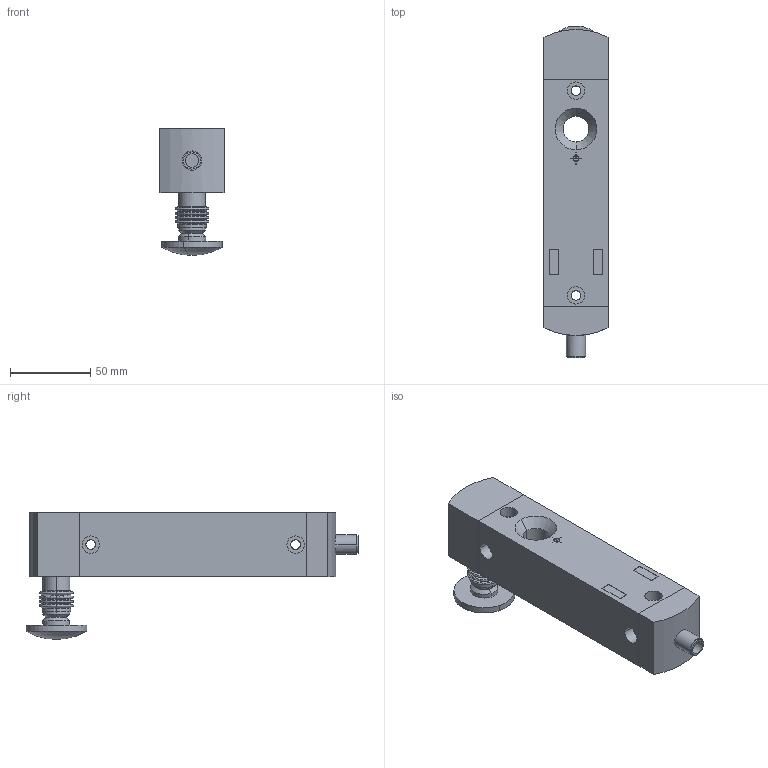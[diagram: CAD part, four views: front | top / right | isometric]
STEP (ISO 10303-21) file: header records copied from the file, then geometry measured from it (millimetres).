
FILE_DESCRIPTION (( 'STEP AP214' ), '1' );
FILE_NAME ('ZF_STEP_NS_xxTExSxK.step', '2017-07-18T06:17:54', ( 'Pizzato Elettrica' ), ( 'Microsoft' ), 'SwSTEP 2.0', 'SolidWorks 2014', '' );
FILE_SCHEMA (( 'AUTOMOTIVE_DESIGN' ));
Length unit declared in the file: millimetre
Products named in the file (7): Pizzato_testa_NS_TE; Pizzato_Pulsante_Fungo_Sblocco_NS; Pizzato_Fungo_NS_8841; Pizzato_testa_NS_Tappo modulare; Pizzato_connettore_NS_SMK; Pizzato_Custodia NS; ZF_STEP_NS_xxTExSxK
Assembly tree (6 placements, depth 3):
  ZF_STEP_NS_xxTExSxK
    Pizzato_Custodia NS
    Pizzato_connettore_NS_SMK
    Pizzato_testa_NS_TE
      Pizzato_testa_NS_Tappo modulare
      Pizzato_Fungo_NS_8841
      Pizzato_Pulsante_Fungo_Sblocco_NS
Bounding box: 40 x 207.44 x 79.3 mm (x, y, z)
Volume: 300967.5 mm3; surface area: 50683.5 mm2
Topology: 5 solids, 5 shells, 312 faces, 753 edges, 481 vertices
Faces by surface type: plane 161, cylinder 62, bspline 41, torus 26, cone 22
Entity records: 9593 total; most frequent: CARTESIAN_POINT 2233, ORIENTED_EDGE 1502, DIRECTION 1379, EDGE_CURVE 751, VERTEX_POINT 481, LINE 461, VECTOR 461, AXIS2_PLACEMENT_3D 459
